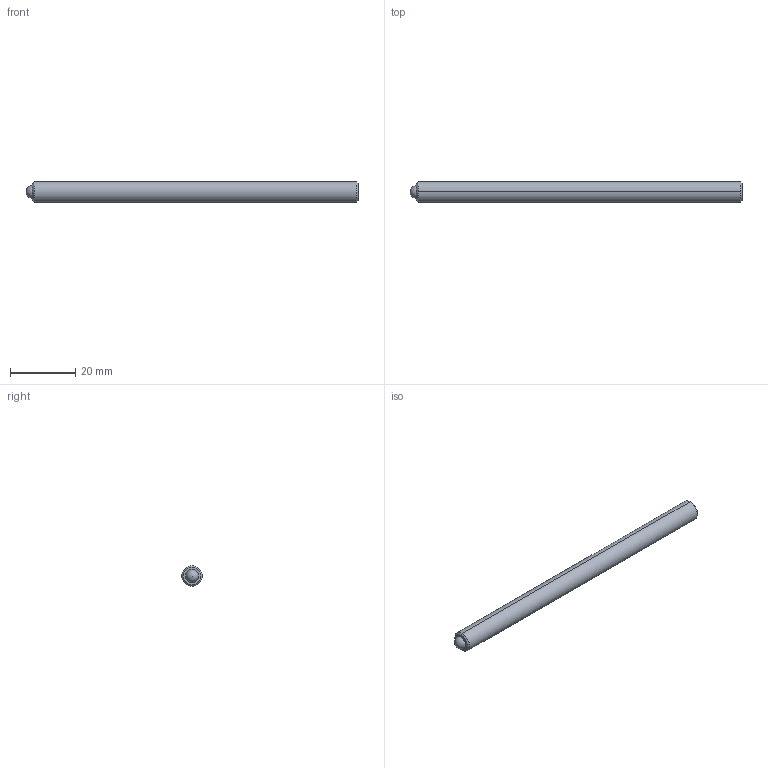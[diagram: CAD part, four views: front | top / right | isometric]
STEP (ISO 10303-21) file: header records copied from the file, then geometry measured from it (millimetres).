
FILE_DESCRIPTION (( 'STEP AP214' ), '1' );
FILE_NAME ('TS250-80-4000.STEP', '2013-02-11T21:13:39', ( 'workpc' ), ( 'Microsoft' ), 'SwSTEP 2.0', 'SolidWorks 2013', '' );
FILE_SCHEMA (( 'AUTOMOTIVE_DESIGN' ));
Length unit declared in the file: inch
Products named in the file (1): TS250-80-4000
Bounding box: 101.6 x 6.35 x 6.35 mm (x, y, z)
Volume: 3146.9 mm3; surface area: 2131.1 mm2
Topology: 2 solids, 2 shells, 20 faces, 45 edges, 29 vertices
Faces by surface type: plane 10, cylinder 4, cone 4, sphere 2
Entity records: 599 total; most frequent: DIRECTION 96, CARTESIAN_POINT 87, ORIENTED_EDGE 80, EDGE_CURVE 40, AXIS2_PLACEMENT_3D 35, VERTEX_POINT 26, LINE 26, VECTOR 26
